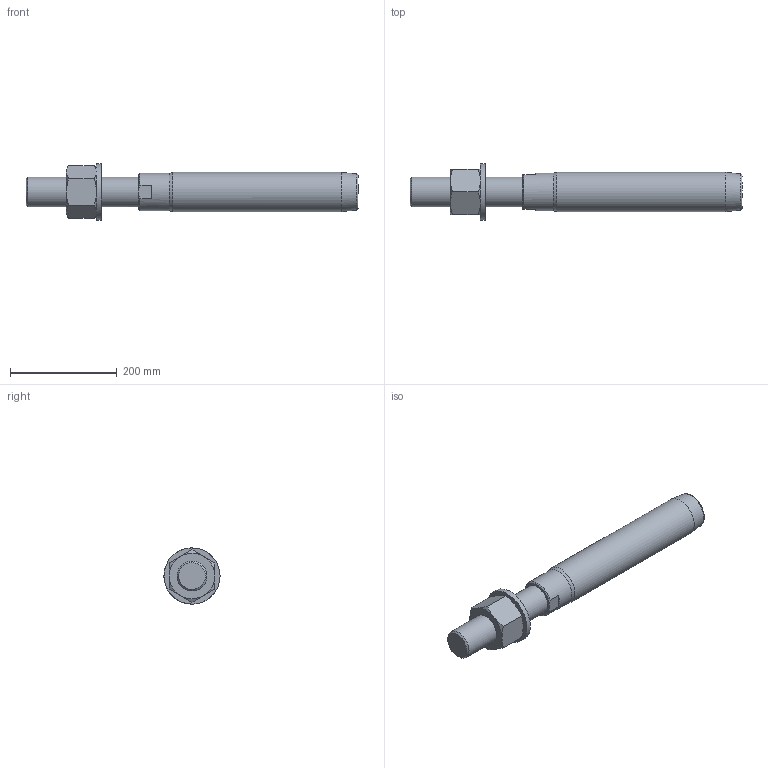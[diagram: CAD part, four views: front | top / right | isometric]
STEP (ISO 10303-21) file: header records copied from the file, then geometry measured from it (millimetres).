
FILE_DESCRIPTION(/* description */ (''),/* implementation_level */ '2;1');
FILE_NAME(/* name */ 'FLT 38_42CrMo4',/* time_stamp */ '2023-05-23T15:57:55+02:00',/* author */ (''),/* organization */ (''),/* preprocessor_version */ 'ST-DEVELOPER v16.5',/* originating_system */ 'Rhino 7.22',/* authorisation */ '');
FILE_SCHEMA (('CONFIG_CONTROL_DESIGN'));
Length unit declared in the file: millimetre
Products named in the file (1): Document
Bounding box: 621 x 105 x 104.9 mm (x, y, z)
Volume: 2512162.7 mm3; surface area: 187068.7 mm2
Topology: 3 solids, 3 shells, 43 faces, 104 edges, 68 vertices
Faces by surface type: bspline 20, plane 17, cylinder 6
Full cylindrical faces by diameter (mm): 50.046 x1, 56 x1, 58 x1, 70 x1, 73.5 x1, 105 x1
Entity records: 1590 total; most frequent: CARTESIAN_POINT 881, ORIENTED_EDGE 208, EDGE_CURVE 104, VERTEX_POINT 68, EDGE_LOOP 48, ADVANCED_FACE 43, FACE_OUTER_BOUND 43, DIRECTION 27
